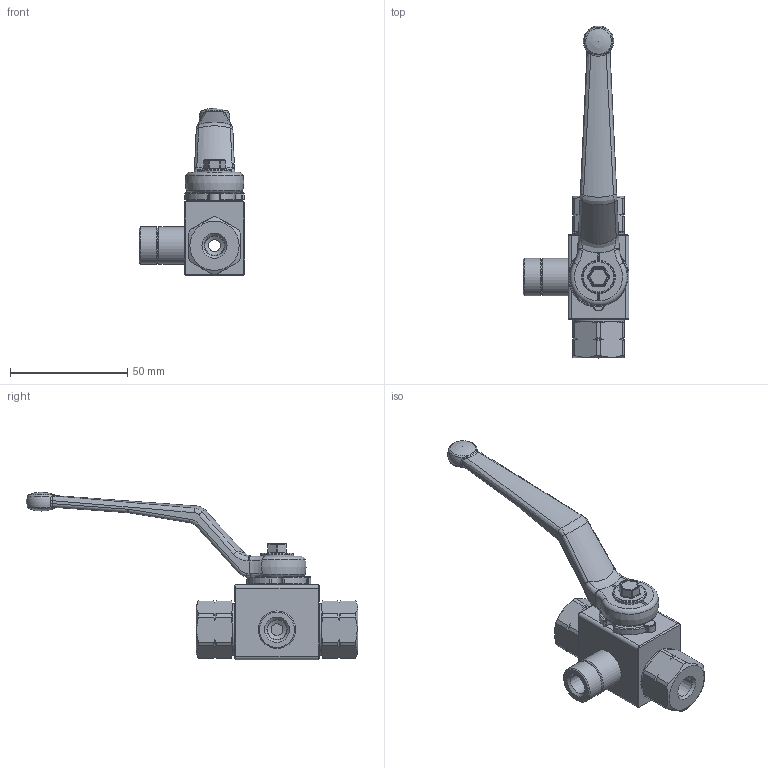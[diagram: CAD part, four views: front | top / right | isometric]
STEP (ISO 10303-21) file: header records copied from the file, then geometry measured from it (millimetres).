
FILE_DESCRIPTION( ( 'Unknown' ), '1' );
FILE_NAME( 'H:/PISTER/3D-MODELLE/BK3 stp/BK3 DN4 1_8 NPT.stp', 'Unknown', ( 'Unknown' ), ( 'Unknown' ), 'PSStep 14.0', 'Unknown', ' ' );
FILE_SCHEMA( ( 'AUTOMOTIVE_DESIGN { 1 0 10303 214 1 1 1 1 }' ) );
Length unit declared in the file: millimetre
Products named in the file (10): Assem1; 06-008-059-oa7; 09-09-002; 58-28740-07-oa8; Griff_SW9; 58-0933-133; 04-004-003-oa9; 04-004-003-oa10; 01-008-015-oa11; 04-004-019-oa12
Assembly tree (9 placements, depth 2):
  Assem1
    06-008-059-oa7
    09-09-002
    58-28740-07-oa8
    Griff_SW9
    58-0933-133
    04-004-003-oa9
    04-004-003-oa10
    01-008-015-oa11
    04-004-019-oa12
Bounding box: 45.2 x 141.5 x 71.4 mm (x, y, z)
Volume: 34629.9 mm3; surface area: 23513.6 mm2
Topology: 9 solids, 9 shells, 421 faces, 1062 edges, 644 vertices
Faces by surface type: cylinder 143, plane 120, cone 58, bspline 42, torus 38, sphere 20
Full cylindrical faces by diameter (mm): 4.134 x1, 4.98 x1, 5 x4, 8.306 x3, 14 x2, 14.3 x1, 16 x3, 21 x2, 22 x2, 22.5 x2
Entity records: 17328 total; most frequent: CARTESIAN_POINT 4355, DIRECTION 2001, ORIENTED_EDGE 1920, EDGE_CURVE 960, AXIS2_PLACEMENT_3D 818, VERTEX_POINT 617, EDGE_LOOP 498, FACE_OUTER_BOUND 452
